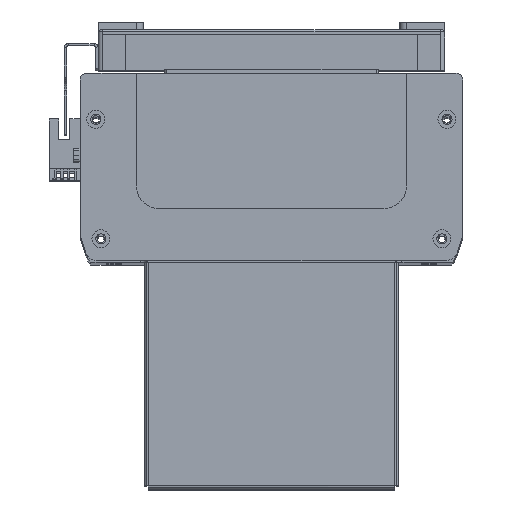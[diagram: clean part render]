
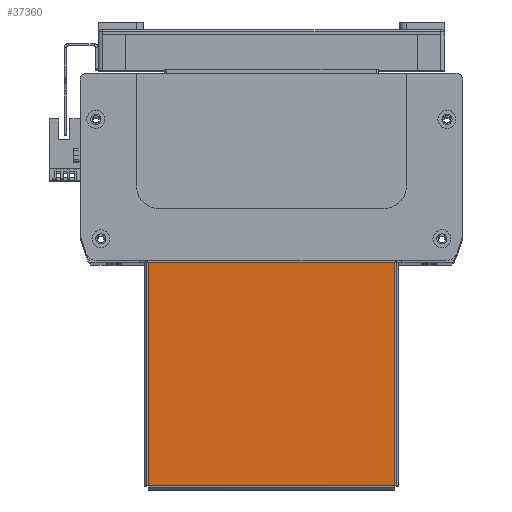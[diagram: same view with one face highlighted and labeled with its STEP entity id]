
A CAD part, top view. The second image highlights one B-rep face of the part: STEP entity #37360.
In plain terms, the highlighted planar face has unit normal (0, 0, 1).
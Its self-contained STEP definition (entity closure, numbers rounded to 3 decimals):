
#211 = ORIENTED_EDGE ( 'NONE', *, *, #13745, .T. ) ;
#243 = ORIENTED_EDGE ( 'NONE', *, *, #13721, .T. ) ;
#263 = ORIENTED_EDGE ( 'NONE', *, *, #13762, .T. ) ;
#273 = ORIENTED_EDGE ( 'NONE', *, *, #13734, .T. ) ;
#2334 = VERTEX_POINT ( 'NONE', #15262 ) ;
#2408 = VERTEX_POINT ( 'NONE', #15323 ) ;
#2444 = VERTEX_POINT ( 'NONE', #15321 ) ;
#2543 = VERTEX_POINT ( 'NONE', #15379 ) ;
#13721 = EDGE_CURVE ( 'NONE', #2408, #2444, #44345, .T. ) ;
#13734 = EDGE_CURVE ( 'NONE', #2334, #2408, #46095, .T. ) ;
#13745 = EDGE_CURVE ( 'NONE', #2543, #2334, #46149, .T. ) ;
#13762 = EDGE_CURVE ( 'NONE', #2444, #2543, #46111, .T. ) ;
#15262 = CARTESIAN_POINT ( 'NONE',  ( -54.763, 50., 0. ) ) ;
#15321 = CARTESIAN_POINT ( 'NONE',  ( 54.763, -49.263, 0. ) ) ;
#15323 = CARTESIAN_POINT ( 'NONE',  ( -54.763, -49.263, 0. ) ) ;
#15379 = CARTESIAN_POINT ( 'NONE',  ( 54.763, 50., 0. ) ) ;
#17243 = CARTESIAN_POINT ( 'NONE',  ( 0., 0., 0. ) ) ;
#17280 = DIRECTION ( 'NONE',  ( 0., 0., 1. ) ) ;
#17292 = PLANE ( 'NONE',  #34027 ) ;
#17338 = DIRECTION ( 'NONE',  ( 1., 0., 0. ) ) ;
#24922 = EDGE_LOOP ( 'NONE', ( #273, #243, #263, #211 ) ) ;
#29647 = FACE_OUTER_BOUND ( 'NONE', #24922, .T. ) ;
#34027 = AXIS2_PLACEMENT_3D ( 'NONE', #17243, #17280, #17338 ) ;
#34912 = CARTESIAN_POINT ( 'NONE',  ( 54.763, -49.293, 0. ) ) ;
#34922 = DIRECTION ( 'NONE',  ( 0., 1., 0. ) ) ;
#35782 = CARTESIAN_POINT ( 'NONE',  ( -54.793, -49.263, 0. ) ) ;
#35786 = DIRECTION ( 'NONE',  ( 1., 0., 0. ) ) ;
#35836 = CARTESIAN_POINT ( 'NONE',  ( -54.763, 50., 0. ) ) ;
#35839 = DIRECTION ( 'NONE',  ( 0., -1., 0. ) ) ;
#35858 = CARTESIAN_POINT ( 'NONE',  ( -55.5, 50., 0. ) ) ;
#35866 = DIRECTION ( 'NONE',  ( -1., 0., 0. ) ) ;
#37360 = ADVANCED_FACE ( 'NONE', ( #29647 ), #17292, .T. ) ;
#44345 = LINE ( 'NONE', #35782, #44469 ) ;
#44469 = VECTOR ( 'NONE', #35786, 1000. ) ;
#46088 = VECTOR ( 'NONE', #34922, 1000. ) ;
#46095 = LINE ( 'NONE', #35836, #46134 ) ;
#46111 = LINE ( 'NONE', #34912, #46088 ) ;
#46127 = VECTOR ( 'NONE', #35866, 1000. ) ;
#46134 = VECTOR ( 'NONE', #35839, 1000. ) ;
#46149 = LINE ( 'NONE', #35858, #46127 ) ;
